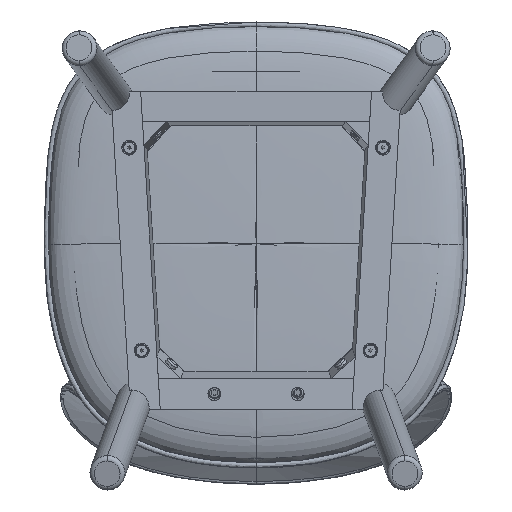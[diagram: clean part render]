
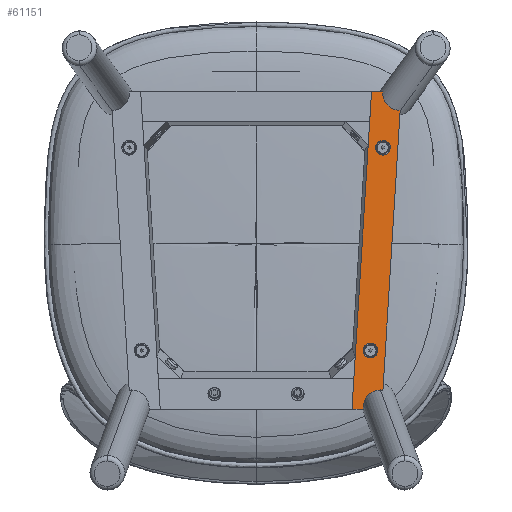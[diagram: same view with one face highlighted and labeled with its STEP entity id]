
A CAD part, front view. The second image highlights one B-rep face of the part: STEP entity #61151.
In plain terms, the highlighted planar face has unit normal (0, -0.999, 0.052).
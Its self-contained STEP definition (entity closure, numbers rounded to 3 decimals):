
#75 = CARTESIAN_POINT ( 'NONE',  ( 145.218, 336.534, 139.536 ) ) ;
#1105 = EDGE_CURVE ( 'NONE', #6753, #110726, #89070, .T. ) ;
#2529 = VERTEX_POINT ( 'NONE', #101881 ) ;
#2927 = CARTESIAN_POINT ( 'NONE',  ( 124.808, 339.715, 200.225 ) ) ;
#3949 = CARTESIAN_POINT ( 'NONE',  ( 115.689, 321.721, -143.115 ) ) ;
#4195 = EDGE_LOOP ( 'NONE', ( #112412, #83526 ) ) ;
#4370 = DIRECTION ( 'NONE',  ( 0., -0.999, 0.052 ) ) ;
#6040 = CARTESIAN_POINT ( 'NONE',  ( 130.741, 324.267, -94.528 ) ) ;
#6225 = EDGE_CURVE ( 'NONE', #6753, #2529, #33996, .T. ) ;
#6753 = VERTEX_POINT ( 'NONE', #2927 ) ;
#11226 = EDGE_CURVE ( 'NONE', #57286, #92632, #78530, .T. ) ;
#12822 = FACE_OUTER_BOUND ( 'NONE', #37822, .T. ) ;
#13178 = DIRECTION ( 'NONE',  ( 0., -0.052, -0.999 ) ) ;
#13370 = DIRECTION ( 'NONE',  ( -1., 0., 0. ) ) ;
#13828 = ORIENTED_EDGE ( 'NONE', *, *, #65314, .F. ) ;
#15216 = ORIENTED_EDGE ( 'NONE', *, *, #11226, .T. ) ;
#15228 = CARTESIAN_POINT ( 'NONE',  ( 131.709, 325.042, -79.735 ) ) ;
#16345 = CARTESIAN_POINT ( 'NONE',  ( 131.708, 325.052, -79.545 ) ) ;
#17297 = CARTESIAN_POINT ( 'NONE',  ( 144.25, 335.759, 124.743 ) ) ;
#17500 = VECTOR ( 'NONE', #109788, 1000. ) ;
#18735 = LINE ( 'NONE', #65907, #113512 ) ;
#21922 = CARTESIAN_POINT ( 'NONE',  ( 127.903, 339.715, 200.225 ) ) ;
#21974 = ORIENTED_EDGE ( 'NONE', *, *, #48208, .F. ) ;
#24838 = EDGE_CURVE ( 'NONE', #110298, #45368, #43339, .T. ) ;
#26623 = CARTESIAN_POINT ( 'NONE',  ( 115.689, 321.721, -143.115 ) ) ;
#26860 = CARTESIAN_POINT ( 'NONE',  ( 115.641, 325.069, -79.238 ) ) ;
#27618 = CARTESIAN_POINT ( 'NONE',  ( 131.631, 325.859, -64.146 ) ) ;
#29140 = CARTESIAN_POINT ( 'NONE',  ( 127.903, 342.347, 250.463 ) ) ;
#30019 = VECTOR ( 'NONE', #82076, 1000. ) ;
#31961 = ORIENTED_EDGE ( 'NONE', *, *, #6225, .F. ) ;
#32088 = CARTESIAN_POINT ( 'NONE',  ( 115.713, 324.242, -95.015 ) ) ;
#32888 = CARTESIAN_POINT ( 'NONE',  ( 155.766, 338.654, 179.982 ) ) ;
#33082 = CARTESIAN_POINT ( 'NONE',  ( 129.144, 336.55, 139.845 ) ) ;
#33782 = EDGE_CURVE ( 'NONE', #45822, #110726, #18735, .T. ) ;
#33996 = LINE ( 'NONE', #21922, #17500 ) ;
#37822 = EDGE_LOOP ( 'NONE', ( #78646, #92737, #21974, #49393, #13828, #31961 ) ) ;
#38696 = VECTOR ( 'NONE', #71151, 1000. ) ;
#38983 = CARTESIAN_POINT ( 'NONE',  ( 145.217, 336.544, 139.725 ) ) ;
#43339 =( BOUNDED_CURVE ( )  B_SPLINE_CURVE ( 3, ( #69111, #75, #86378, #69852, #17297, #61026, #78669 ),
 .UNSPECIFIED., .F., .F. ) 
 B_SPLINE_CURVE_WITH_KNOTS ( ( 4, 3, 4 ),
 ( 0.483, 0.5, 0.983 ),
 .UNSPECIFIED. ) 
 CURVE ( )  GEOMETRIC_REPRESENTATION_ITEM ( )  RATIONAL_B_SPLINE_CURVE ( ( 0.934, 0.955, 0.977, 1., 0.356, 0.334, 0.934 ) ) 
 REPRESENTATION_ITEM ( '' )  );
#43907 = CARTESIAN_POINT ( 'NONE',  ( 114.737, 322.425, -129.682 ) ) ;
#44544 =( BOUNDED_CURVE ( )  B_SPLINE_CURVE ( 3, ( #49589, #33082, #85654, #102166, #102540, #110981, #84887 ),
 .UNSPECIFIED., .F., .F. ) 
 B_SPLINE_CURVE_WITH_KNOTS ( ( 4, 3, 4 ),
 ( 0.983, 1., 1.483 ),
 .UNSPECIFIED. ) 
 CURVE ( )  GEOMETRIC_REPRESENTATION_ITEM ( )  RATIONAL_B_SPLINE_CURVE ( ( 0.934, 0.955, 0.977, 1., 0.356, 0.334, 0.934 ) ) 
 REPRESENTATION_ITEM ( '' )  );
#45269 = CARTESIAN_POINT ( 'NONE',  ( 115.653, 325.078, -79.053 ) ) ;
#45368 = VERTEX_POINT ( 'NONE', #71864 ) ;
#45674 = LINE ( 'NONE', #81081, #38696 ) ;
#45822 = VERTEX_POINT ( 'NONE', #3949 ) ;
#47092 = VERTEX_POINT ( 'NONE', #49791 ) ;
#48067 = PLANE ( 'NONE',  #55823 ) ;
#48208 = EDGE_CURVE ( 'NONE', #76737, #45822, #107222, .T. ) ;
#49393 = ORIENTED_EDGE ( 'NONE', *, *, #107829, .F. ) ;
#49589 = CARTESIAN_POINT ( 'NONE',  ( 129.144, 336.54, 139.656 ) ) ;
#49791 = CARTESIAN_POINT ( 'NONE',  ( 155.766, 338.654, 179.982 ) ) ;
#50496 = CARTESIAN_POINT ( 'NONE',  ( 115.636, 325.049, -79.615 ) ) ;
#51518 = CARTESIAN_POINT ( 'NONE',  ( 131.708, 325.052, -79.545 ) ) ;
#53091 =( BOUNDED_CURVE ( )  B_SPLINE_CURVE ( 3, ( #16345, #15228, #77722, #84649, #6040, #32088, #50496 ),
 .UNSPECIFIED., .F., .F. ) 
 B_SPLINE_CURVE_WITH_KNOTS ( ( 4, 3, 4 ),
 ( 0.483, 0.5, 0.983 ),
 .UNSPECIFIED. ) 
 CURVE ( )  GEOMETRIC_REPRESENTATION_ITEM ( )  RATIONAL_B_SPLINE_CURVE ( ( 0.934, 0.955, 0.977, 1., 0.356, 0.334, 0.934 ) ) 
 REPRESENTATION_ITEM ( '' )  );
#55823 = AXIS2_PLACEMENT_3D ( 'NONE', #84128, #4370, #13178 ) ;
#57286 = VERTEX_POINT ( 'NONE', #107114 ) ;
#58055 = FACE_BOUND ( 'NONE', #58176, .T. ) ;
#58176 = EDGE_LOOP ( 'NONE', ( #15216, #97490 ) ) ;
#59362 = CARTESIAN_POINT ( 'NONE',  ( 136.181, 339.105, 188.6 ) ) ;
#61026 = CARTESIAN_POINT ( 'NONE',  ( 129.221, 335.733, 124.256 ) ) ;
#61151 = ADVANCED_FACE ( 'NONE', ( #58055, #84154, #12822 ), #48067, .T. ) ;
#61782 = CARTESIAN_POINT ( 'NONE',  ( 115.636, 325.049, -79.615 ) ) ;
#64749 = CARTESIAN_POINT ( 'NONE',  ( 137.136, 322.806, -122.413 ) ) ;
#65314 = EDGE_CURVE ( 'NONE', #2529, #47092, #104658, .T. ) ;
#65907 = CARTESIAN_POINT ( 'NONE',  ( 127.903, 321.721, -143.115 ) ) ;
#69111 = CARTESIAN_POINT ( 'NONE',  ( 145.217, 336.544, 139.725 ) ) ;
#69852 = CARTESIAN_POINT ( 'NONE',  ( 145.2, 336.514, 139.164 ) ) ;
#71151 = DIRECTION ( 'NONE',  ( -0.061, -0.052, -0.997 ) ) ;
#71864 = CARTESIAN_POINT ( 'NONE',  ( 129.144, 336.54, 139.656 ) ) ;
#76737 = VERTEX_POINT ( 'NONE', #64749 ) ;
#77722 = CARTESIAN_POINT ( 'NONE',  ( 131.703, 325.033, -79.922 ) ) ;
#78139 = CARTESIAN_POINT ( 'NONE',  ( 144.097, 338.661, 180.113 ) ) ;
#78530 =( BOUNDED_CURVE ( )  B_SPLINE_CURVE ( 3, ( #61782, #88649, #26860, #45269, #88265, #27618, #97079 ),
 .UNSPECIFIED., .F., .F. ) 
 B_SPLINE_CURVE_WITH_KNOTS ( ( 4, 3, 4 ),
 ( 0.983, 1., 1.483 ),
 .UNSPECIFIED. ) 
 CURVE ( )  GEOMETRIC_REPRESENTATION_ITEM ( )  RATIONAL_B_SPLINE_CURVE ( ( 0.934, 0.955, 0.977, 1., 0.356, 0.334, 0.934 ) ) 
 REPRESENTATION_ITEM ( '' )  );
#78646 = ORIENTED_EDGE ( 'NONE', *, *, #1105, .T. ) ;
#78669 = CARTESIAN_POINT ( 'NONE',  ( 129.144, 336.54, 139.656 ) ) ;
#81081 = CARTESIAN_POINT ( 'NONE',  ( 159.987, 342.244, 248.492 ) ) ;
#82076 = DIRECTION ( 'NONE',  ( -0.061, -0.052, -0.997 ) ) ;
#83526 = ORIENTED_EDGE ( 'NONE', *, *, #24838, .T. ) ;
#84128 = CARTESIAN_POINT ( 'NONE',  ( 127.903, 342.347, 250.463 ) ) ;
#84154 = FACE_BOUND ( 'NONE', #4195, .T. ) ;
#84649 = CARTESIAN_POINT ( 'NONE',  ( 131.691, 325.023, -80.107 ) ) ;
#84887 = CARTESIAN_POINT ( 'NONE',  ( 145.217, 336.544, 139.725 ) ) ;
#85654 = CARTESIAN_POINT ( 'NONE',  ( 129.149, 336.56, 140.032 ) ) ;
#86378 = CARTESIAN_POINT ( 'NONE',  ( 145.212, 336.524, 139.349 ) ) ;
#87284 = CARTESIAN_POINT ( 'NONE',  ( 124.168, 322.902, -120.579 ) ) ;
#88265 = CARTESIAN_POINT ( 'NONE',  ( 116.603, 325.834, -64.632 ) ) ;
#88649 = CARTESIAN_POINT ( 'NONE',  ( 115.635, 325.059, -79.426 ) ) ;
#89070 = LINE ( 'NONE', #29140, #30019 ) ;
#92632 = VERTEX_POINT ( 'NONE', #51518 ) ;
#92737 = ORIENTED_EDGE ( 'NONE', *, *, #33782, .F. ) ;
#95331 = EDGE_CURVE ( 'NONE', #45368, #110298, #44544, .T. ) ;
#95787 = CARTESIAN_POINT ( 'NONE',  ( 103.656, 321.721, -143.115 ) ) ;
#96467 = CARTESIAN_POINT ( 'NONE',  ( 137.136, 322.806, -122.413 ) ) ;
#97079 = CARTESIAN_POINT ( 'NONE',  ( 131.708, 325.052, -79.545 ) ) ;
#97490 = ORIENTED_EDGE ( 'NONE', *, *, #107194, .T. ) ;
#101881 = CARTESIAN_POINT ( 'NONE',  ( 136.885, 339.715, 200.225 ) ) ;
#102166 = CARTESIAN_POINT ( 'NONE',  ( 129.162, 336.57, 140.217 ) ) ;
#102540 = CARTESIAN_POINT ( 'NONE',  ( 130.111, 337.325, 154.639 ) ) ;
#104658 =( BOUNDED_CURVE ( )  B_SPLINE_CURVE ( 3, ( #113436, #59362, #78139, #32888 ),
 .UNSPECIFIED., .F., .F. ) 
 B_SPLINE_CURVE_WITH_KNOTS ( ( 4, 4 ),
 ( 2.379, 3.991 ),
 .UNSPECIFIED. ) 
 CURVE ( )  GEOMETRIC_REPRESENTATION_ITEM ( )  RATIONAL_B_SPLINE_CURVE ( ( 1., 0.795, 0.795, 1. ) ) 
 REPRESENTATION_ITEM ( '' )  );
#107114 = CARTESIAN_POINT ( 'NONE',  ( 115.636, 325.049, -79.615 ) ) ;
#107194 = EDGE_CURVE ( 'NONE', #92632, #57286, #53091, .T. ) ;
#107222 =( BOUNDED_CURVE ( )  B_SPLINE_CURVE ( 3, ( #96467, #87284, #43907, #26623 ),
 .UNSPECIFIED., .F., .F. ) 
 B_SPLINE_CURVE_WITH_KNOTS ( ( 4, 4 ),
 ( 2.727, 4.487 ),
 .UNSPECIFIED. ) 
 CURVE ( )  GEOMETRIC_REPRESENTATION_ITEM ( )  RATIONAL_B_SPLINE_CURVE ( ( 1., 0.758, 0.758, 1. ) ) 
 REPRESENTATION_ITEM ( '' )  );
#107829 = EDGE_CURVE ( 'NONE', #47092, #76737, #45674, .T. ) ;
#109788 = DIRECTION ( 'NONE',  ( 1., 0., 0. ) ) ;
#110298 = VERTEX_POINT ( 'NONE', #38983 ) ;
#110726 = VERTEX_POINT ( 'NONE', #95787 ) ;
#110981 = CARTESIAN_POINT ( 'NONE',  ( 145.14, 337.351, 155.125 ) ) ;
#112412 = ORIENTED_EDGE ( 'NONE', *, *, #95331, .T. ) ;
#113436 = CARTESIAN_POINT ( 'NONE',  ( 136.885, 339.715, 200.225 ) ) ;
#113512 = VECTOR ( 'NONE', #13370, 1000. ) ;
